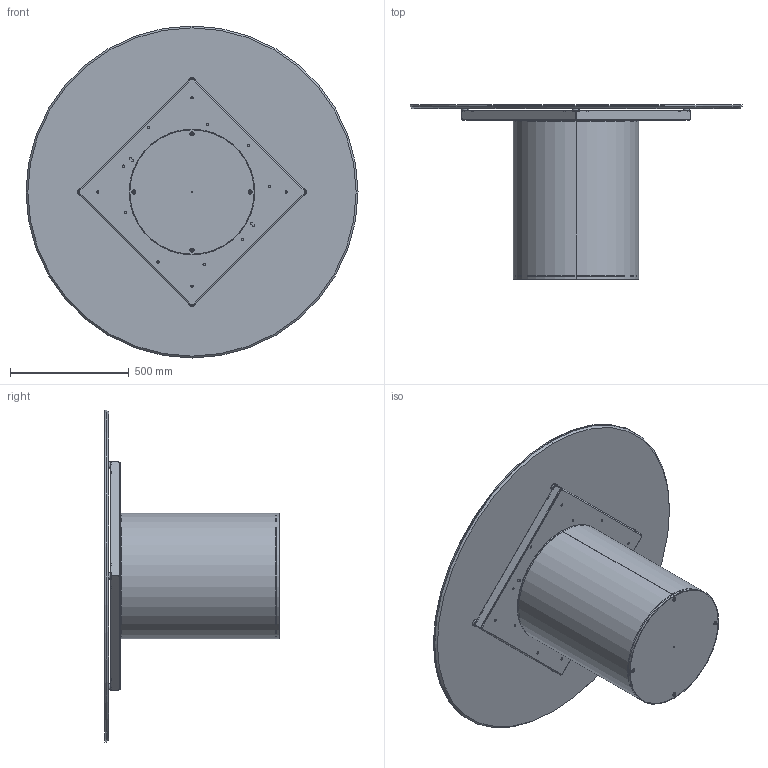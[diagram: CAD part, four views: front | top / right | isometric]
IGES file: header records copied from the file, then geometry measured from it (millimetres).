
Start section: SolidWorks IGES file using analytic representation for surfaces
Global section: file name: Y:\eforma\TECNICO\SOLIDWORKS\E-FORMA\1-TAVOLI\CILINDRO\02 parts\CI06C.IGS; native system: SolidWorks 2022; preprocessor: SolidWorks 2022; author: eforma.tech; date: 240808.090033; units: millimetre
Bounding box: 1400 x 736 x 1400 mm (x, y, z)
Volume: 31811209.2 mm3; surface area: 10351369.9 mm2
Topology: 24 solids, 24 shells, 710 faces, 1792 edges, 1112 vertices
Faces by surface type: revolution 376, plane 334
